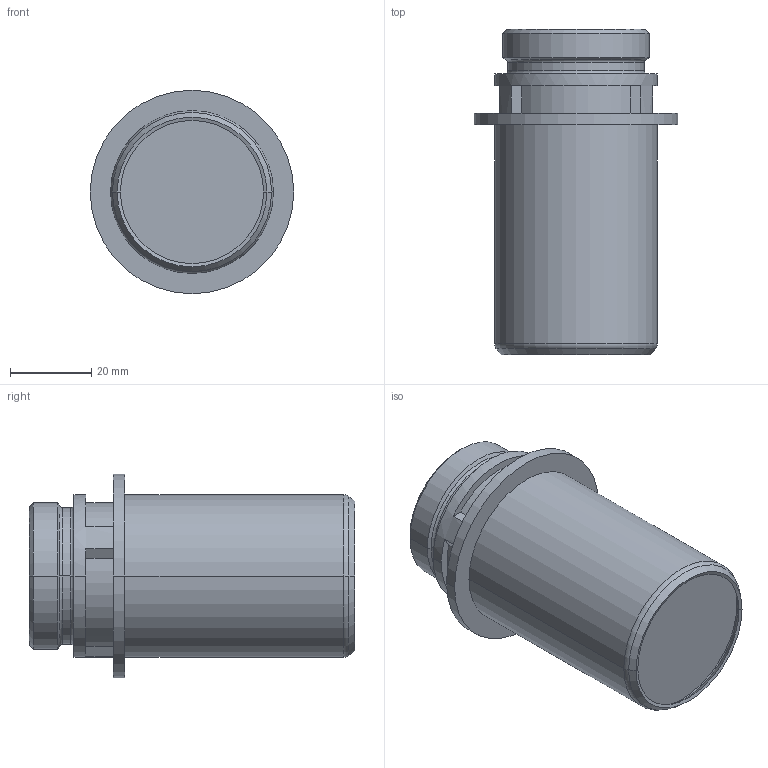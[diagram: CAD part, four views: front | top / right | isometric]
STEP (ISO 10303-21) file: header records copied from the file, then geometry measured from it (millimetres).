
FILE_DESCRIPTION((''),'2;1');
FILE_NAME('14711800_208514','2019-07-04T',('c.kretz'),(''),'PRO/ENGINEER BY PARAMETRIC TECHNOLOGY CORPORATION, 2015110','PRO/ENGINEER BY PARAMETRIC TECHNOLOGY CORPORATION, 2015110','');
FILE_SCHEMA(('AUTOMOTIVE_DESIGN { 1 0 10303 214 1 1 1 1 }'));
Length unit declared in the file: millimetre
Products named in the file (1): 14711800_208514
Bounding box: 50 x 80 x 50 mm (x, y, z)
Volume: 92814.3 mm3; surface area: 15029.9 mm2
Topology: 1 solids, 1 shells, 48 faces, 106 edges, 64 vertices
Faces by surface type: plane 15, cylinder 15, cone 10, torus 8
Entity records: 2236 total; most frequent: DIRECTION 256, CARTESIAN_POINT 234, ORIENTED_EDGE 212, PRESENTATION_STYLE_ASSIGNMENT 107, STYLED_ITEM 107, CURVE_STYLE 106, EDGE_CURVE 106, AXIS2_PLACEMENT_3D 105
